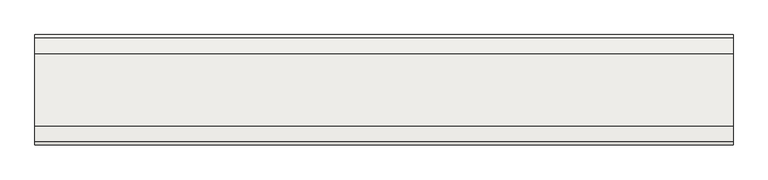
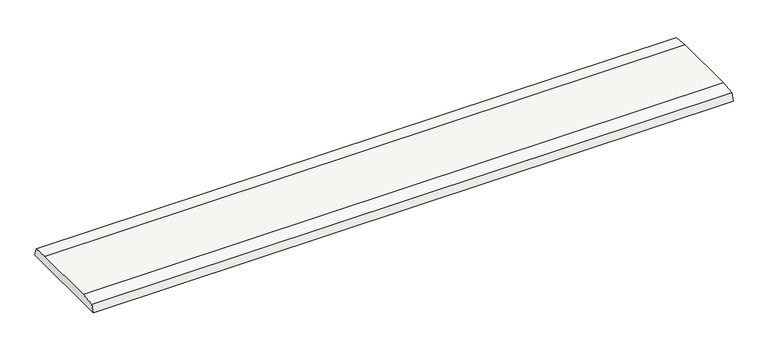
"""IFC4 building model written with IfcOpenShell, lengths in millimetres: slab geometry, ROSA GRES_245 FL_Colocación en plano : Rejilla 245 FL_Tresor_Java_Anti-Slip."""

from ifc_helpers import new_model, si_unit, point, frame, frame_2d, origin, place, context, project, spatial, polyline, circle_curve, trimmed, segment, composite_curve, outline, extrude, source, transform, mapped, element, save


def slab_3995c372(model_context):
    return source(origin(), model_context, "Body", "SweptSolid", [
        extrude(outline(composite_curve([segment(polyline([(238.1232639, -3.0209998), (244.0502169, -22.0), (0.9482737, -22.0), (6.8503894, -3.0704499)]), True, "CONTINUOUS"), segment(trimmed(circle_curve(frame_2d((86.2847076, -720.2412375)), 721.556477), [point((6.8503894, -3.0704499))], [point((42.7380732, 0.0))], False, "CARTESIAN"), True, "CONTINUOUS"), segment(polyline([(42.7380732, 0.0), (202.6833158, 0.0)]), True, "CONTINUOUS"), segment(trimmed(circle_curve(frame_2d((159.1366814, -720.2412375)), 721.556477), [point((202.6833158, 0.0))], [point((238.1232639, -3.0209998))], False, "CARTESIAN"), True, "CONTINUOUS")], self_intersect=False)), frame((0.0, 0.0, 0.0), z_axis=(1.0, 0.0, 0.0), x_axis=(0.0, 1.0, 0.0)), (0.0, 0.0, 1.0), 1540.0),
    ])


if __name__ == "__main__":
    model = new_model("IFC4")
    model_context = context("Model", 3, world=origin())
    ifc_project = project(units=[si_unit("LENGTHUNIT", "METRE", prefix="MILLI")], contexts=[model_context])
    site = spatial("IfcSite", under=ifc_project)
    building = spatial("IfcBuilding", under=site)
    placement = place(None, origin())
    slab_shape = slab_3995c372(model_context)
    element("IfcSlab", 1, ObjectType="ROSA GRES_245 FL_Colocación en plano : Rejilla 245 FL_Tresor_Java_Anti-Slip", at=placement, inside=building, context=model_context, shape_type="MappedRepresentation", body=[
        mapped(slab_shape, transform((0.0, 0.0, 0.0), x_axis=(1.0, 0.0, 0.0), y_axis=(0.0, 1.0, 0.0), z_axis=(0.0, 0.0, 1.0))),
    ])
    save(model, "model.ifc")
